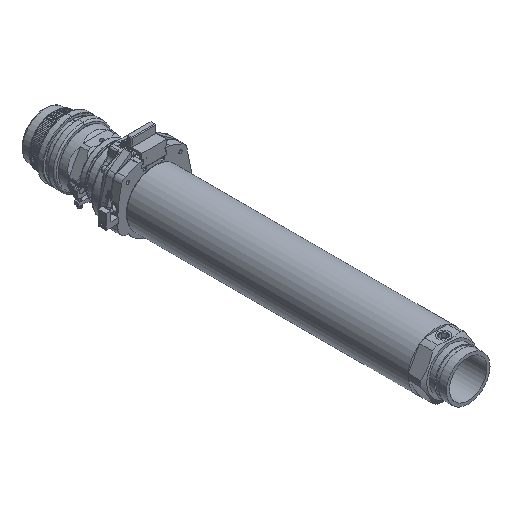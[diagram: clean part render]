
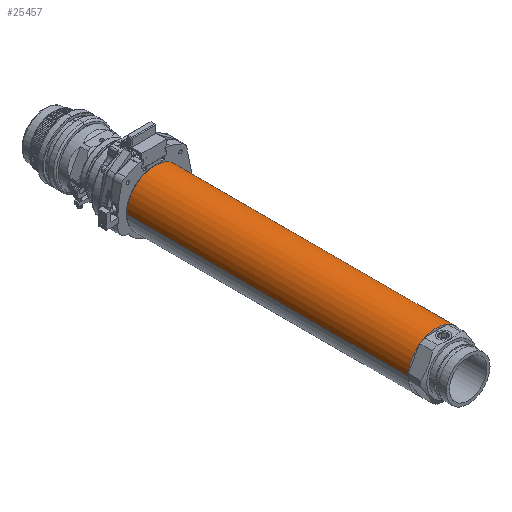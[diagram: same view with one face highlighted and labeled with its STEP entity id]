
A CAD part, isometric view. The second image highlights one B-rep face of the part: STEP entity #25457.
In plain terms, the highlighted cylindrical face has radius 57.023 mm (diameter 114.046 mm), a partial arc.
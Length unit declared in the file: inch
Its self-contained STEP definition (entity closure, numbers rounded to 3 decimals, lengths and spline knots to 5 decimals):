
#2476 = DIRECTION ( 'NONE',  ( 0., 1., 0. ) ) ;
#2650 = LINE ( 'NONE', #33917, #98895 ) ;
#6835 = VERTEX_POINT ( 'NONE', #12630 ) ;
#8673 = CARTESIAN_POINT ( 'NONE',  ( 2.245, -0.025, 0. ) ) ;
#12028 = CARTESIAN_POINT ( 'NONE',  ( -2.245, -0.025, 0. ) ) ;
#12630 = CARTESIAN_POINT ( 'NONE',  ( -2.245, -22.625, 0. ) ) ;
#13498 = ORIENTED_EDGE ( 'NONE', *, *, #52479, .T. ) ;
#13504 = DIRECTION ( 'NONE',  ( 1., 0., 0. ) ) ;
#13835 = DIRECTION ( 'NONE',  ( 0., 1., 0. ) ) ;
#19097 = VERTEX_POINT ( 'NONE', #8673 ) ;
#20251 = DIRECTION ( 'NONE',  ( 1., 0., 0. ) ) ;
#24771 = VERTEX_POINT ( 'NONE', #87095 ) ;
#25457 = ADVANCED_FACE ( 'NONE', ( #28121 ), #63830, .T. ) ;
#26039 = EDGE_CURVE ( 'NONE', #6835, #24771, #67382, .T. ) ;
#26539 = AXIS2_PLACEMENT_3D ( 'NONE', #88419, #41523, #50118 ) ;
#28121 = FACE_OUTER_BOUND ( 'NONE', #62169, .T. ) ;
#28290 = CARTESIAN_POINT ( 'NONE',  ( 2.245, -0.24281, 0. ) ) ;
#33917 = CARTESIAN_POINT ( 'NONE',  ( -2.245, -0.24281, 0. ) ) ;
#35413 = CARTESIAN_POINT ( 'NONE',  ( 0., -0.025, 0. ) ) ;
#36139 = CIRCLE ( 'NONE', #81151, 2.245 ) ;
#38321 = VERTEX_POINT ( 'NONE', #12028 ) ;
#39760 = LINE ( 'NONE', #28290, #83043 ) ;
#41523 = DIRECTION ( 'NONE',  ( 0., 1., 0. ) ) ;
#43317 = DIRECTION ( 'NONE',  ( 0., 1., 0. ) ) ;
#45483 = CARTESIAN_POINT ( 'NONE',  ( 0., -0.24281, 0. ) ) ;
#47235 = ORIENTED_EDGE ( 'NONE', *, *, #55264, .F. ) ;
#50118 = DIRECTION ( 'NONE',  ( 1., 0., 0. ) ) ;
#52479 = EDGE_CURVE ( 'NONE', #24771, #19097, #39760, .T. ) ;
#55264 = EDGE_CURVE ( 'NONE', #6835, #38321, #2650, .T. ) ;
#58967 = DIRECTION ( 'NONE',  ( 0., 1., 0. ) ) ;
#62169 = EDGE_LOOP ( 'NONE', ( #47235, #68241, #13498, #100963 ) ) ;
#63830 = CYLINDRICAL_SURFACE ( 'NONE', #77401, 2.245 ) ;
#67382 = CIRCLE ( 'NONE', #26539, 2.245 ) ;
#68241 = ORIENTED_EDGE ( 'NONE', *, *, #26039, .T. ) ;
#77401 = AXIS2_PLACEMENT_3D ( 'NONE', #45483, #13835, #13504 ) ;
#78139 = EDGE_CURVE ( 'NONE', #38321, #19097, #36139, .T. ) ;
#81151 = AXIS2_PLACEMENT_3D ( 'NONE', #35413, #43317, #20251 ) ;
#83043 = VECTOR ( 'NONE', #58967, 39.37008 ) ;
#87095 = CARTESIAN_POINT ( 'NONE',  ( 2.245, -22.625, 0. ) ) ;
#88419 = CARTESIAN_POINT ( 'NONE',  ( 0., -22.625, 0. ) ) ;
#98895 = VECTOR ( 'NONE', #2476, 39.37008 ) ;
#100963 = ORIENTED_EDGE ( 'NONE', *, *, #78139, .F. ) ;
